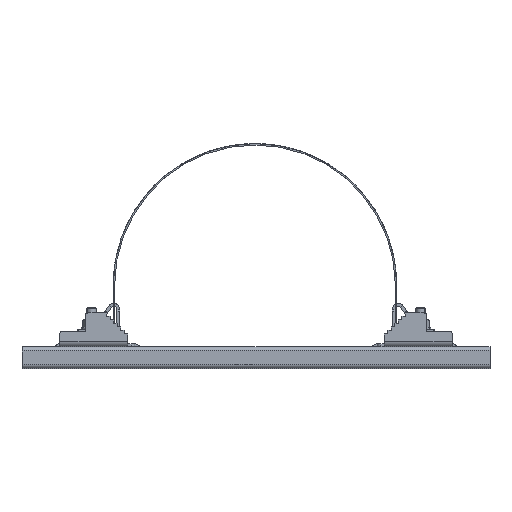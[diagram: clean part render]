
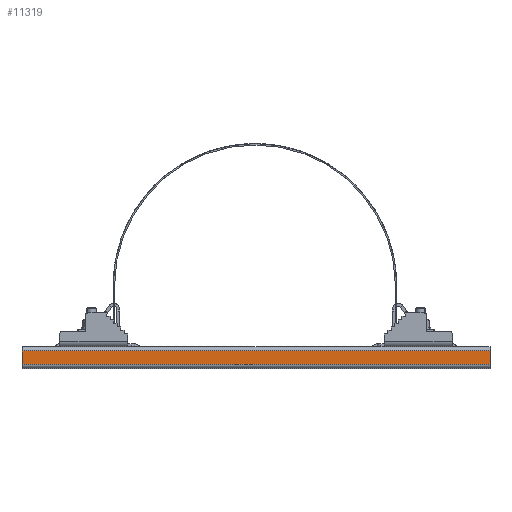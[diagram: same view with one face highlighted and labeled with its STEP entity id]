
A CAD part, front view. The second image highlights one B-rep face of the part: STEP entity #11319.
In plain terms, the highlighted planar face has unit normal (0, -1, -0.004) as drawn and (0, 0, 1) by its records, which use the part's own axes.
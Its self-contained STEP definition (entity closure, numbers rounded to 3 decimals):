
#70 = CARTESIAN_POINT ( 'NONE',  ( 15., -200., 19. ) ) ;
#132 = DIRECTION ( 'NONE',  ( 0., -1., 0. ) ) ;
#1101 = ORIENTED_EDGE ( 'NONE', *, *, #10486, .T. ) ;
#1333 = EDGE_CURVE ( 'NONE', #5775, #11512, #2841, .T. ) ;
#2237 = CARTESIAN_POINT ( 'NONE',  ( 3.5, 200., 19. ) ) ;
#2253 = ORIENTED_EDGE ( 'NONE', *, *, #1333, .F. ) ;
#2672 = LINE ( 'NONE', #5699, #4286 ) ;
#2701 = CARTESIAN_POINT ( 'NONE',  ( 3.5, -200., 19. ) ) ;
#2841 = LINE ( 'NONE', #10363, #9484 ) ;
#2892 = DIRECTION ( 'NONE',  ( 0., -1., 0. ) ) ;
#3763 = EDGE_CURVE ( 'NONE', #11512, #9849, #11126, .T. ) ;
#3944 = EDGE_CURVE ( 'NONE', #5167, #9849, #10672, .T. ) ;
#4035 = ORIENTED_EDGE ( 'NONE', *, *, #3763, .F. ) ;
#4214 = AXIS2_PLACEMENT_3D ( 'NONE', #5962, #10001, #11738 ) ;
#4286 = VECTOR ( 'NONE', #2892, 1000. ) ;
#4736 = CARTESIAN_POINT ( 'NONE',  ( 15., 600., 19. ) ) ;
#4999 = DIRECTION ( 'NONE',  ( 1., 0., 0. ) ) ;
#5167 = VERTEX_POINT ( 'NONE', #2701 ) ;
#5466 = DIRECTION ( 'NONE',  ( 1., 0., 0. ) ) ;
#5626 = ORIENTED_EDGE ( 'NONE', *, *, #3944, .T. ) ;
#5699 = CARTESIAN_POINT ( 'NONE',  ( 3.5, 600., 19. ) ) ;
#5773 = VECTOR ( 'NONE', #4999, 1000. ) ;
#5775 = VERTEX_POINT ( 'NONE', #2237 ) ;
#5962 = CARTESIAN_POINT ( 'NONE',  ( 0., 600., 19. ) ) ;
#5981 = CARTESIAN_POINT ( 'NONE',  ( 0., -200., 19. ) ) ;
#7966 = PLANE ( 'NONE',  #4214 ) ;
#9410 = EDGE_LOOP ( 'NONE', ( #4035, #2253, #1101, #5626 ) ) ;
#9484 = VECTOR ( 'NONE', #5466, 1000. ) ;
#9849 = VERTEX_POINT ( 'NONE', #70 ) ;
#10001 = DIRECTION ( 'NONE',  ( 0., 0., -1. ) ) ;
#10154 = CARTESIAN_POINT ( 'NONE',  ( 15., 200., 19. ) ) ;
#10363 = CARTESIAN_POINT ( 'NONE',  ( 0., 200., 19. ) ) ;
#10486 = EDGE_CURVE ( 'NONE', #5775, #5167, #2672, .T. ) ;
#10672 = LINE ( 'NONE', #5981, #5773 ) ;
#11126 = LINE ( 'NONE', #4736, #11836 ) ;
#11319 = ADVANCED_FACE ( 'NONE', ( #11325 ), #7966, .F. ) ;
#11325 = FACE_OUTER_BOUND ( 'NONE', #9410, .T. ) ;
#11512 = VERTEX_POINT ( 'NONE', #10154 ) ;
#11738 = DIRECTION ( 'NONE',  ( -1., 0., 0. ) ) ;
#11836 = VECTOR ( 'NONE', #132, 1000. ) ;
